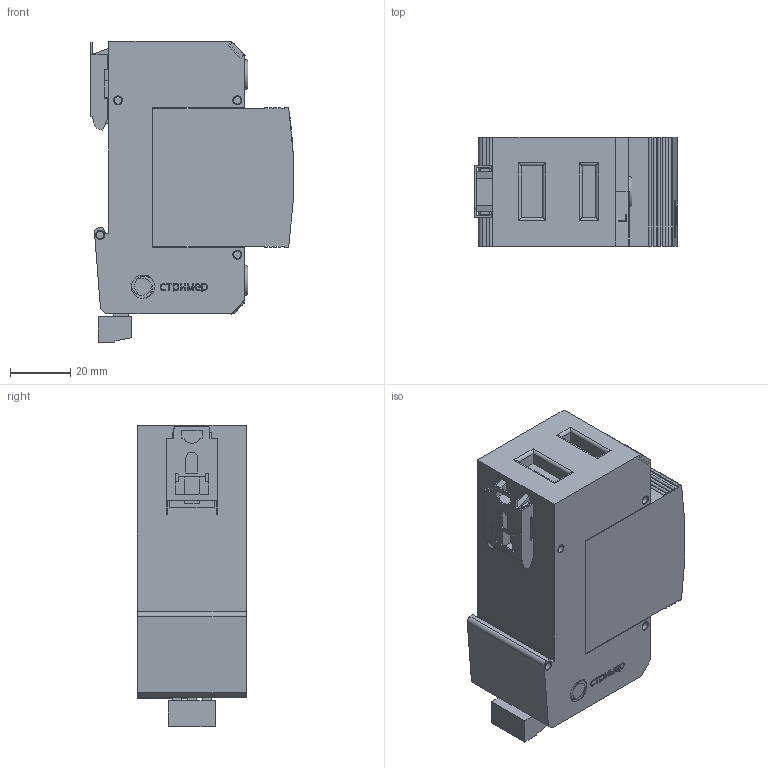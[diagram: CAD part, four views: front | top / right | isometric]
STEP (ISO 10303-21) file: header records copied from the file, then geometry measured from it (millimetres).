
FILE_DESCRIPTION(('TFLEX Exchange Step'),'2;1');
FILE_NAME('X2\041004400442\X0\.111_103.stp', '2022-08-30T13:47:27+03:00',('Ivan Berdigulov'),('Unknown organisation'),'TFLEX Exchange 2019.2','T-FLEX CAD','Unknown authorisation');
FILE_SCHEMA( ('AUTOMOTIVE_DESIGN { 1 0 10303 214 1 1 1 1 }') );
Length unit declared in the file: millimetre
Products named in the file (2): 0
Assembly tree (1 placements, depth 2):
  0
    0
Bounding box: 66.98 x 36.1 x 99.6 mm (x, y, z)
Volume: 174348.4 mm3; surface area: 36415.1 mm2
Topology: 33 solids, 33 shells, 501 faces, 1270 edges, 856 vertices
Faces by surface type: plane 354, cylinder 108, bspline 31, torus 5, cone 3
Full cylindrical faces by diameter (mm): 1.6 x3, 2.5 x12, 3 x15, 4 x3
Entity records: 18674 total; most frequent: CARTESIAN_POINT 6607, ORIENTED_EDGE 2482, DIRECTION 2289, EDGE_CURVE 1241, VECTOR 883, LINE 883, VERTEX_POINT 856, AXIS2_PLACEMENT_3D 703
